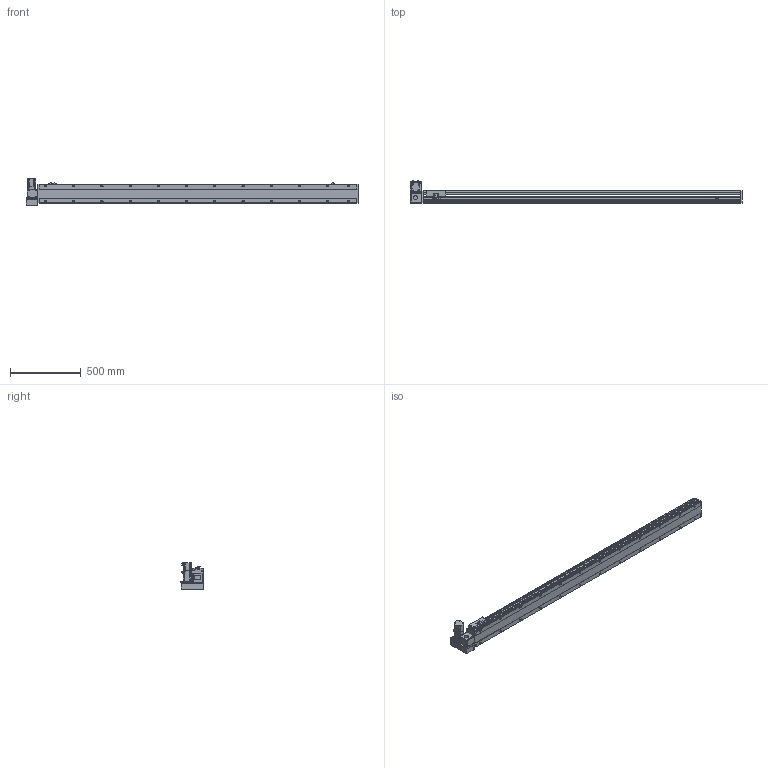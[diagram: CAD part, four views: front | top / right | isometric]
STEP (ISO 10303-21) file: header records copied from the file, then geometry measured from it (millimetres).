
FILE_DESCRIPTION(/* description */ ('STEP AP214'),/* implementation_level */ '2;1');
FILE_NAME(/* name */ 'PBS140S-P40-S2000-LU-T40-C1-N(0)',/* time_stamp */ '2022-06-09T02:35:46+02:00',/* author */ ('License CC BY-ND 4.0'),/* organization */ ('CADENAS'),/* preprocessor_version */ 'ST-DEVELOPER v18.102',/* originating_system */ 'PARTsolutions',/* authorisation */ ' ');
FILE_SCHEMA (('AUTOMOTIVE_DESIGN {1 0 10303 214 3 1 1}'));
Length unit declared in the file: millimetre
Products named in the file (7): PBS140S-P40-S2000-LU-T40-C1-N(0); PBS140S_sensor; PBS140S_plant; PBS140S_sliser; T40-p1; PBS140ST-LU_motors; PBS140S-S2000()_body
Assembly tree (8 placements, depth 2):
  PBS140S-P40-S2000-LU-T40-C1-N(0)
    PBS140S_sensor  x3
    PBS140S_plant
    PBS140S_sliser
    T40-p1
    PBS140ST-LU_motors
    PBS140S-S2000()_body
Bounding box: 2354 x 162.5 x 189.7 mm (x, y, z)
Volume: 11593570.8 mm3; surface area: 1964099.5 mm2
Topology: 8 solids, 8 shells, 1163 faces, 3071 edges, 2009 vertices
Faces by surface type: plane 726, cylinder 377, cone 50, sphere 8, torus 2
Full cylindrical faces by diameter (mm): 3.242 x4, 4 x2, 4.134 x4, 4.4 x8, 4.5 x2, 4.8 x4, 4.917 x32, 5.5 x7, 6 x2, 7 x26, 7.5 x8, 8 x12, 8.5 x4, 10.5 x24, 14 x1, 30 x2, 50 x2
Entity records: 33328 total; most frequent: CARTESIAN_POINT 6264, DIRECTION 5628, ORIENTED_EDGE 5302, EDGE_CURVE 2651, AXIS2_PLACEMENT_3D 1979, VERTEX_POINT 1849, LINE 1670, VECTOR 1670
